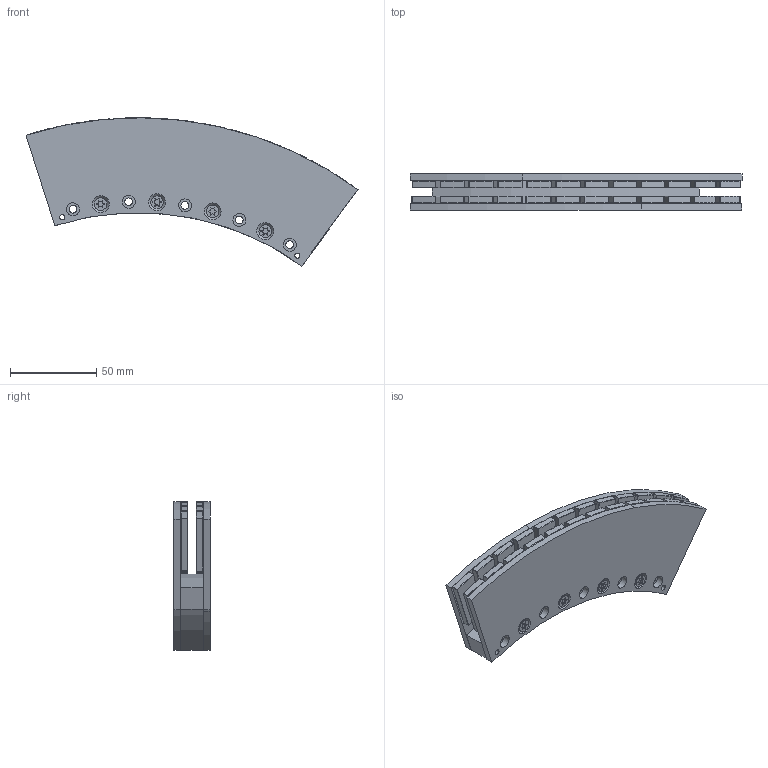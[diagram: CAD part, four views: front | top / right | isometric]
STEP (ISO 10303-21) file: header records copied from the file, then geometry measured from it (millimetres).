
FILE_DESCRIPTION (( 'STEP AP203' ), '1' );
FILE_NAME ('MY59-54deg 3D.STEP', '2025-02-10T08:19:23', ( '' ), ( '' ), 'SwSTEP 2.0', 'SolidWorks 2021', '' );
FILE_SCHEMA (( 'CONFIG_CONTROL_DESIGN' ));
Length unit declared in the file: inch
Products named in the file (6): MP59-10M; IL59C magnet; MY59 CP; MY59 CS; MY59-54deg 3D; MY44 screw
Assembly tree (24 placements, depth 3):
  MY59-54deg 3D
    MP59-10M  x2
      MY59 CP
      IL59C magnet
    MY59 CS
    MY44 screw  x8
Bounding box: 192.46 x 21.1 x 86.06 mm (x, y, z)
Volume: 141824.5 mm3; surface area: 82978.9 mm2
Topology: 35 solids, 35 shells, 1064 faces, 2478 edges, 1444 vertices
Faces by surface type: cylinder 492, plane 252, sphere 144, torus 96, bspline 48, cone 32
Entity records: 5361 total; most frequent: DIRECTION 815, CARTESIAN_POINT 769, ORIENTED_EDGE 658, AXIS2_PLACEMENT_3D 334, EDGE_CURVE 329, VERTEX_POINT 208, CIRCLE 178, EDGE_LOOP 175
